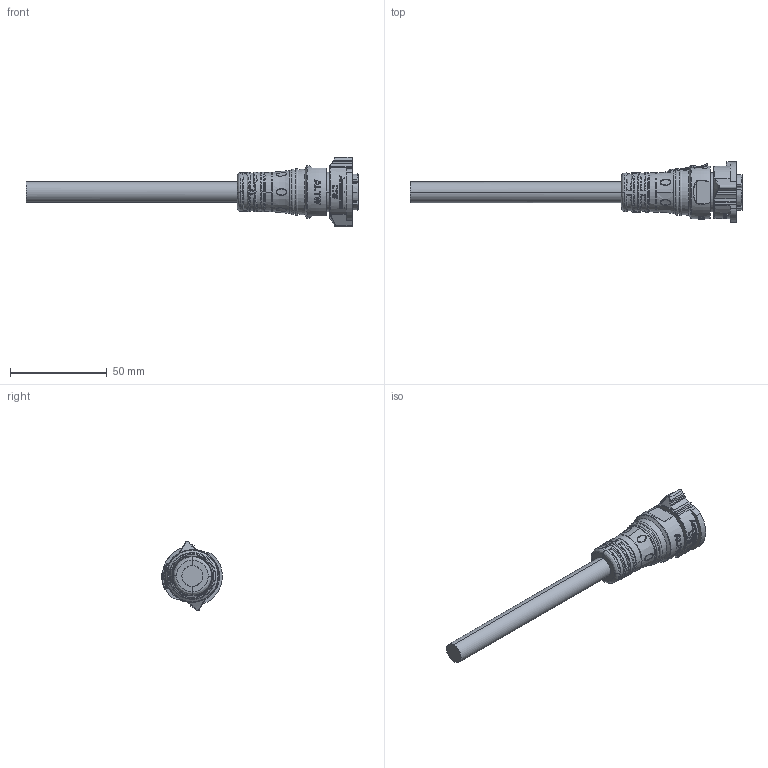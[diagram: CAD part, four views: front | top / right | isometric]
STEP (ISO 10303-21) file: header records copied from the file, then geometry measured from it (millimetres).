
FILE_DESCRIPTION((''),'2;1');
FILE_NAME('DC-02AFFM-QL8EXX','2021-07-06T',('L210023'),(''),'PRO/ENGINEER BY PARAMETRIC TECHNOLOGY CORPORATION, 2017170','PRO/ENGINEER BY PARAMETRIC TECHNOLOGY CORPORATION, 2017170','');
FILE_SCHEMA(('CONFIG_CONTROL_DESIGN'));
Products named in the file (1): DC-02AFFM-QL8EXX
Bounding box: 171.45 x 31.26 x 36 mm (x, y, z)
Volume: 35523.3 mm3; surface area: 12706.4 mm2
Topology: 1 solids, 2 shells, 967 faces, 2647 edges, 1727 vertices
Faces by surface type: plane 358, extrusion 218, bspline 172, cylinder 125, cone 44, torus 39, revolution 9, sphere 2
Entity records: 57755 total; most frequent: CARTESIAN_POINT 29233, ORIENTED_EDGE 5294, DIRECTION 3404, EDGE_CURVE 2647, VERTEX_POINT 1727, B_SPLINE_CURVE_WITH_KNOTS 1398, AXIS2_PLACEMENT_3D 1133, VECTOR 1129
